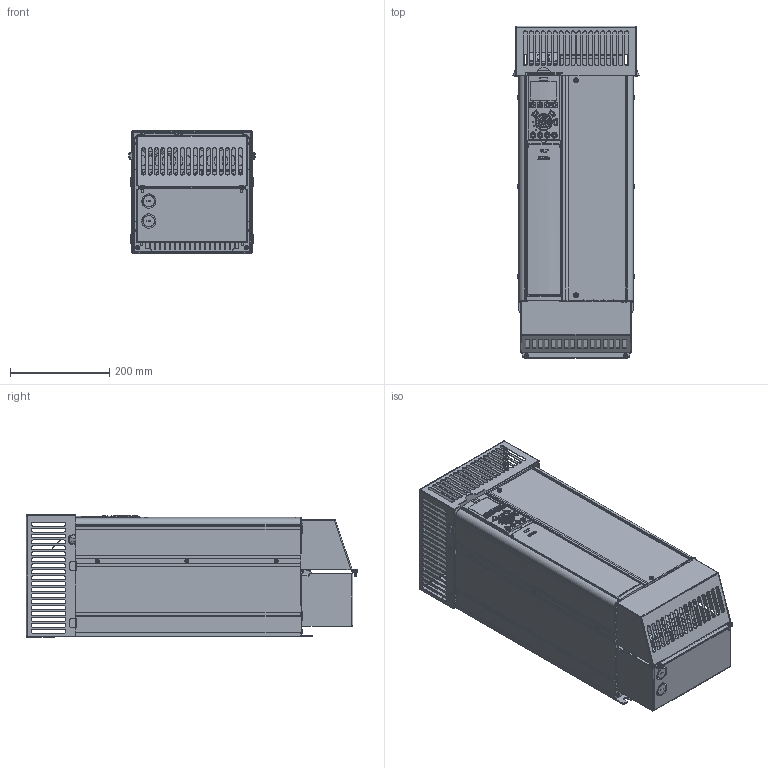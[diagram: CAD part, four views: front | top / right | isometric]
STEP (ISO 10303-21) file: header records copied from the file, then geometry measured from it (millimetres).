
FILE_DESCRIPTION((''),'2;1');
FILE_NAME('DANFOSS-FC200B4NEMA1KIT-OPT-192','2008-07-15T',('Abhilash.Paramesh'),('dan Drives A/S'),'PRO/ENGINEER BY PARAMETRIC TECHNOLOGY CORPORATION, 2007160','PRO/ENGINEER BY PARAMETRIC TECHNOLOGY CORPORATION, 2007160','');
FILE_SCHEMA(('CONFIG_CONTROL_DESIGN', 'GEOMETRIC_VALIDATION_PROPERTIES_MIM'));
Products named in the file (1): DANFOSS-FC200B4NEMA1KIT-OPT-192
Bounding box: 254.72 x 668 x 246 mm (x, y, z)
Volume: 22241801.8 mm3; surface area: 1831538.5 mm2
Topology: 1 solids, 33 shells, 5711 faces, 15610 edges, 9920 vertices
Faces by surface type: plane 3020, cylinder 1670, bspline 601, torus 163, sphere 92, extrusion 91, cone 74
Entity records: 245931 total; most frequent: CARTESIAN_POINT 80810, ORIENTED_EDGE 31054, DIRECTION 25493, EDGE_CURVE 15527, VERTEX_POINT 9920, VECTOR 8649, LINE 8558, AXIS2_PLACEMENT_3D 8422
